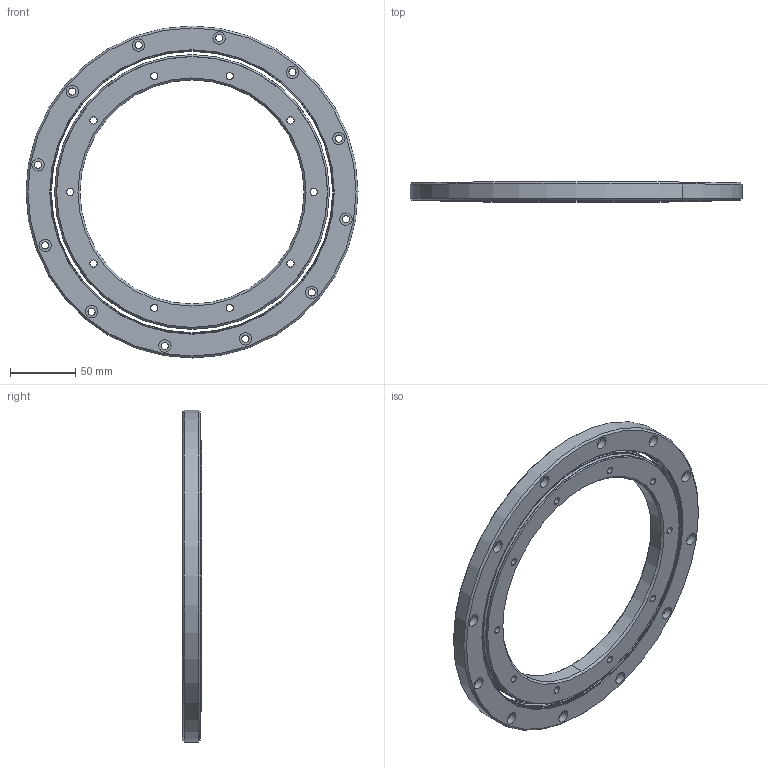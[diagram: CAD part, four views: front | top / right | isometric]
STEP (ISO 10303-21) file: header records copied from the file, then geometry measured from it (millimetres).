
FILE_DESCRIPTION (( 'STEP AP214' ), '1' );
FILE_NAME ('TTS2-172-255-15 Bearing Assembly.STEP', '2018-03-14T15:17:43', ( 'Admin' ), ( '' ), 'SwSTEP 2.0', 'SolidWorks 2018', '' );
FILE_SCHEMA (( 'AUTOMOTIVE_DESIGN' ));
Length unit declared in the file: inch
Products named in the file (3): TTS2 Outer Ring_TTS2-172-255-15; TTS2 Inner Ring_TTS2-172-255-15; TTS2-172-255-15 Bearing Assembly
Assembly tree (2 placements, depth 2):
  TTS2-172-255-15 Bearing Assembly
    TTS2 Inner Ring_TTS2-172-255-15
    TTS2 Outer Ring_TTS2-172-255-15
Bounding box: 254 x 15 x 254 mm (x, y, z)
Volume: 334535.9 mm3; surface area: 92712.4 mm2
Topology: 2 solids, 2 shells, 190 faces, 424 edges, 262 vertices
Faces by surface type: cylinder 112, cone 28, plane 28, torus 22
Entity records: 5576 total; most frequent: DIRECTION 1098, CARTESIAN_POINT 881, ORIENTED_EDGE 848, AXIS2_PLACEMENT_3D 479, EDGE_CURVE 424, CIRCLE 284, EDGE_LOOP 262, VERTEX_POINT 262
